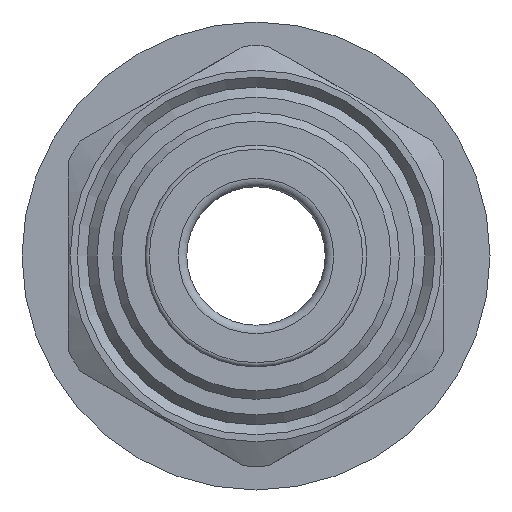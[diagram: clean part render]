
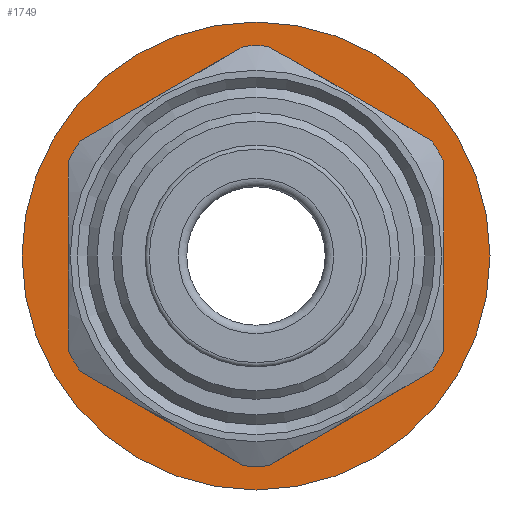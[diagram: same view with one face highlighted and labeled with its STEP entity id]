
A CAD part, left-side view. The second image highlights one B-rep face of the part: STEP entity #1749.
In plain terms, the highlighted planar face has unit normal (-1, 0, 0).
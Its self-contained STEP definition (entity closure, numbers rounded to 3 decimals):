
#302=CARTESIAN_POINT('',(-12.172,0.853,15.093));
#303=VERTEX_POINT('',#302);
#304=CARTESIAN_POINT('',(-12.172,-0.853,15.093));
#305=VERTEX_POINT('',#304);
#306=CARTESIAN_POINT('',(-12.172,0.,0.));
#307=DIRECTION('',(1.,0.,0.));
#308=DIRECTION('',(0.,0.,-1.));
#309=AXIS2_PLACEMENT_3D('',#306,#307,#308);
#310=CIRCLE('',#309,15.117);
#311=EDGE_CURVE('',#303,#305,#310,.T.);
#336=CARTESIAN_POINT('',(-12.172,12.644,8.285));
#337=VERTEX_POINT('',#336);
#344=CARTESIAN_POINT('',(-12.172,13.503,6.796));
#345=VERTEX_POINT('',#344);
#346=CARTESIAN_POINT('',(-12.172,0.,0.));
#347=DIRECTION('',(1.,0.,0.));
#348=DIRECTION('',(0.,0.,-1.));
#349=AXIS2_PLACEMENT_3D('',#346,#347,#348);
#350=CIRCLE('',#349,15.117);
#351=EDGE_CURVE('',#345,#337,#350,.T.);
#369=CARTESIAN_POINT('',(-12.172,13.503,-6.796));
#370=VERTEX_POINT('',#369);
#377=CARTESIAN_POINT('',(-12.172,12.637,-8.296));
#378=VERTEX_POINT('',#377);
#379=CARTESIAN_POINT('',(-12.172,0.,0.));
#380=DIRECTION('',(1.,0.,0.));
#381=DIRECTION('',(0.,0.,-1.));
#382=AXIS2_PLACEMENT_3D('',#379,#380,#381);
#383=CIRCLE('',#382,15.117);
#384=EDGE_CURVE('',#378,#370,#383,.T.);
#401=CARTESIAN_POINT('',(-12.172,0.,-15.117));
#402=VERTEX_POINT('',#401);
#410=CARTESIAN_POINT('',(-12.172,0.866,-15.092));
#411=VERTEX_POINT('',#410);
#418=CARTESIAN_POINT('',(-12.172,0.,0.));
#419=DIRECTION('',(1.,0.,0.));
#420=DIRECTION('',(0.,0.,-1.));
#421=AXIS2_PLACEMENT_3D('',#418,#419,#420);
#422=CIRCLE('',#421,15.117);
#423=EDGE_CURVE('',#402,#411,#422,.T.);
#435=CARTESIAN_POINT('',(-12.172,-12.637,-8.296));
#436=VERTEX_POINT('',#435);
#443=CARTESIAN_POINT('',(-12.172,-13.497,-6.808));
#444=VERTEX_POINT('',#443);
#445=CARTESIAN_POINT('',(-12.172,0.,0.));
#446=DIRECTION('',(1.,0.,0.));
#447=DIRECTION('',(0.,0.,-1.));
#448=AXIS2_PLACEMENT_3D('',#445,#446,#447);
#449=CIRCLE('',#448,15.117);
#450=EDGE_CURVE('',#444,#436,#449,.T.);
#468=CARTESIAN_POINT('',(-12.172,-13.497,6.808));
#469=VERTEX_POINT('',#468);
#476=CARTESIAN_POINT('',(-12.172,-12.644,8.285));
#477=VERTEX_POINT('',#476);
#478=CARTESIAN_POINT('',(-12.172,0.,0.));
#479=DIRECTION('',(1.,0.,0.));
#480=DIRECTION('',(0.,0.,-1.));
#481=AXIS2_PLACEMENT_3D('',#478,#479,#480);
#482=CIRCLE('',#481,15.117);
#483=EDGE_CURVE('',#477,#469,#482,.T.);
#1667=CARTESIAN_POINT('',(-12.172,0.,-16.828));
#1668=VERTEX_POINT('',#1667);
#1675=CARTESIAN_POINT('',(-12.172,0.,0.));
#1676=DIRECTION('',(1.,0.,0.));
#1677=DIRECTION('',(0.,0.,-1.));
#1678=AXIS2_PLACEMENT_3D('',#1675,#1676,#1677);
#1679=CIRCLE('',#1678,16.828);
#1680=EDGE_CURVE('',#1668,#1668,#1679,.T.);
#1688=CARTESIAN_POINT('',(-12.172,16.828,0.));
#1689=DIRECTION('',(-1.,0.,0.));
#1690=DIRECTION('',(0.,0.,1.));
#1691=AXIS2_PLACEMENT_3D('',#1688,#1689,#1690);
#1692=PLANE('',#1691);
#1693=CARTESIAN_POINT('',(-12.172,12.644,8.285));
#1694=DIRECTION('',(0.,-0.866,0.5));
#1695=VECTOR('',#1694,13.615);
#1696=LINE('',#1693,#1695);
#1697=EDGE_CURVE('',#337,#303,#1696,.T.);
#1698=ORIENTED_EDGE('',*,*,#1697,.T.);
#1699=ORIENTED_EDGE('',*,*,#311,.T.);
#1700=CARTESIAN_POINT('',(-12.172,-0.853,15.093));
#1701=DIRECTION('',(0.,-0.866,-0.5));
#1702=VECTOR('',#1701,13.615);
#1703=LINE('',#1700,#1702);
#1704=EDGE_CURVE('',#305,#477,#1703,.T.);
#1705=ORIENTED_EDGE('',*,*,#1704,.T.);
#1706=ORIENTED_EDGE('',*,*,#483,.T.);
#1707=CARTESIAN_POINT('',(-12.172,-13.497,6.808));
#1708=DIRECTION('',(0.,0.,-1.));
#1709=VECTOR('',#1708,13.615);
#1710=LINE('',#1707,#1709);
#1711=EDGE_CURVE('',#469,#444,#1710,.T.);
#1712=ORIENTED_EDGE('',*,*,#1711,.T.);
#1713=ORIENTED_EDGE('',*,*,#450,.T.);
#1714=CARTESIAN_POINT('',(-12.172,-0.866,-15.092));
#1715=VERTEX_POINT('',#1714);
#1716=CARTESIAN_POINT('',(-12.172,-12.637,-8.296));
#1717=DIRECTION('',(0.,0.866,-0.5));
#1718=VECTOR('',#1717,13.591);
#1719=LINE('',#1716,#1718);
#1720=EDGE_CURVE('',#436,#1715,#1719,.T.);
#1721=ORIENTED_EDGE('',*,*,#1720,.T.);
#1722=CARTESIAN_POINT('',(-12.172,0.,0.));
#1723=DIRECTION('',(1.,0.,0.));
#1724=DIRECTION('',(0.,0.,-1.));
#1725=AXIS2_PLACEMENT_3D('',#1722,#1723,#1724);
#1726=CIRCLE('',#1725,15.117);
#1727=EDGE_CURVE('',#1715,#402,#1726,.T.);
#1728=ORIENTED_EDGE('',*,*,#1727,.T.);
#1729=ORIENTED_EDGE('',*,*,#423,.T.);
#1730=CARTESIAN_POINT('',(-12.172,0.866,-15.092));
#1731=DIRECTION('',(0.,0.866,0.5));
#1732=VECTOR('',#1731,13.591);
#1733=LINE('',#1730,#1732);
#1734=EDGE_CURVE('',#411,#378,#1733,.T.);
#1735=ORIENTED_EDGE('',*,*,#1734,.T.);
#1736=ORIENTED_EDGE('',*,*,#384,.T.);
#1737=CARTESIAN_POINT('',(-12.172,13.503,-6.796));
#1738=DIRECTION('',(0.,0.,1.));
#1739=VECTOR('',#1738,13.591);
#1740=LINE('',#1737,#1739);
#1741=EDGE_CURVE('',#370,#345,#1740,.T.);
#1742=ORIENTED_EDGE('',*,*,#1741,.T.);
#1743=ORIENTED_EDGE('',*,*,#351,.T.);
#1744=EDGE_LOOP('',(#1698,#1699,#1705,#1706,#1712,#1713,#1721,#1728,#1729,#1735,#1736,#1742,#1743));
#1745=FACE_BOUND('',#1744,.T.);
#1746=ORIENTED_EDGE('',*,*,#1680,.F.);
#1747=EDGE_LOOP('',(#1746));
#1748=FACE_BOUND('',#1747,.T.);
#1749=ADVANCED_FACE('',(#1745,#1748),#1692,.T.);
